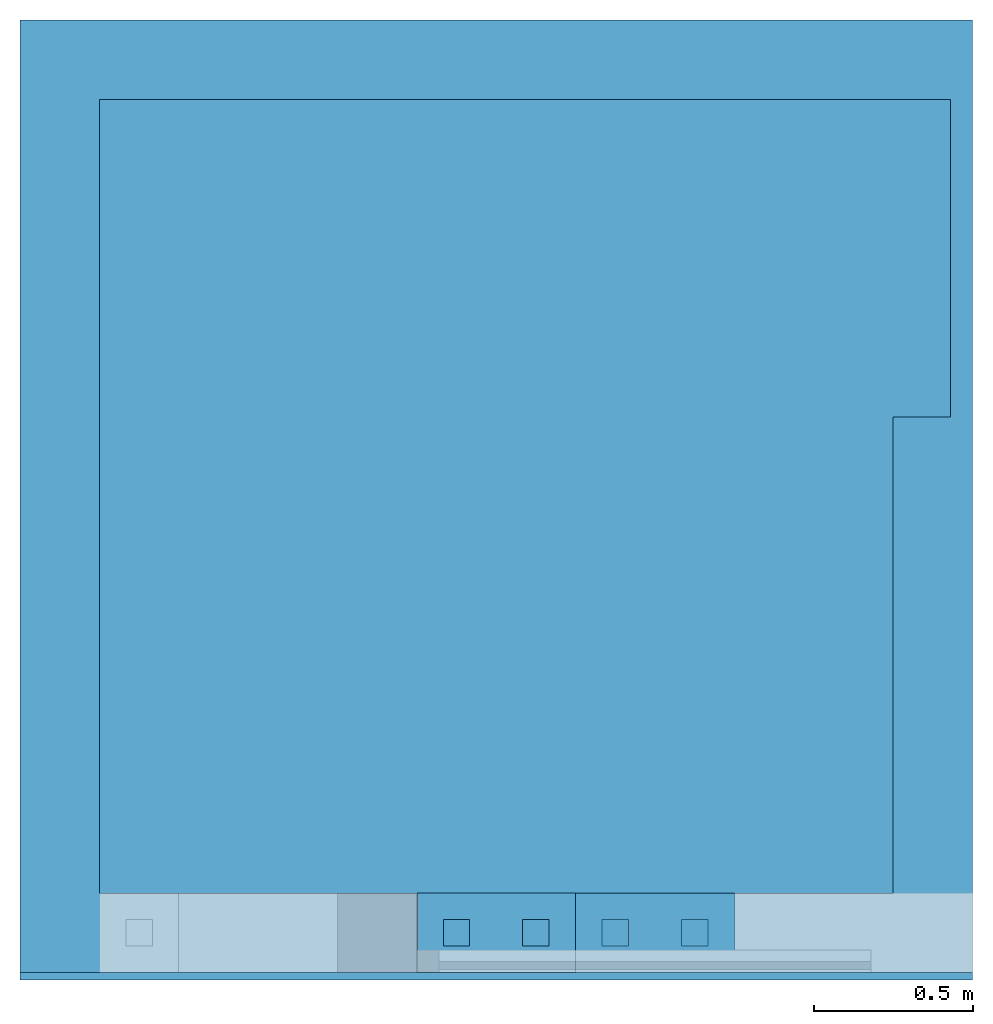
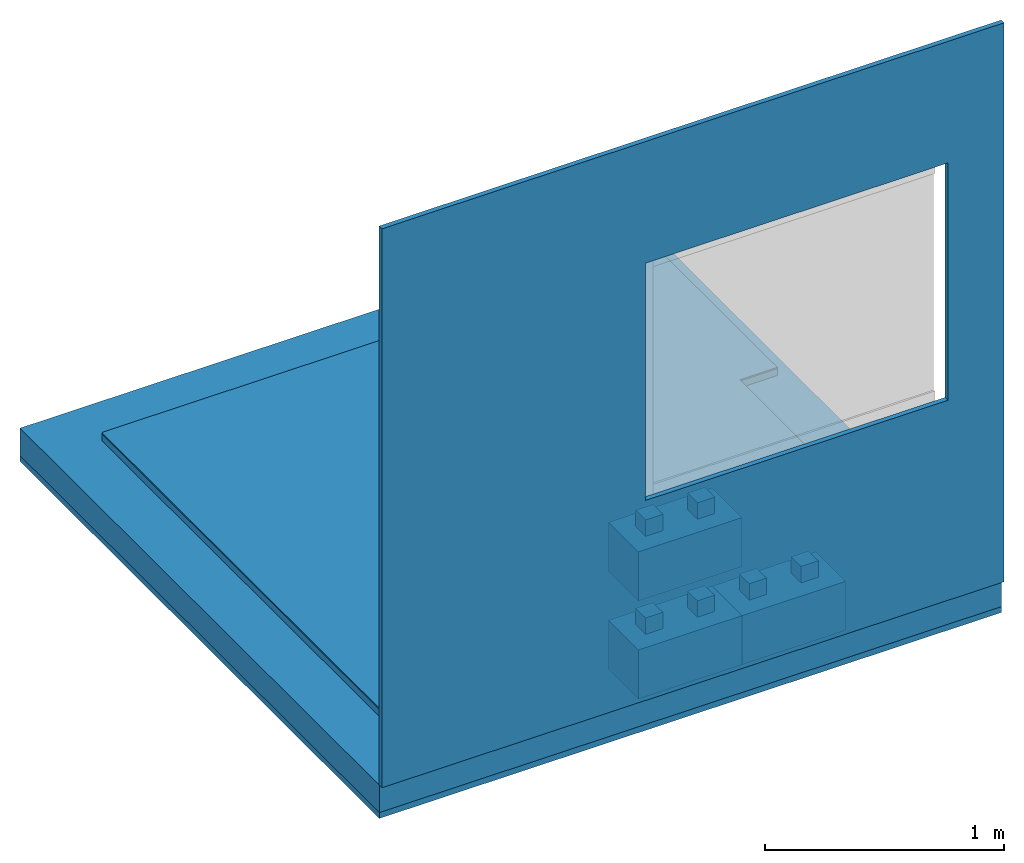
# One storey, part 8 of 9: 5 building element parts, 3 walls, 1 opening, 3 elements without a shape of their own.
"""IFC4 building model written with IfcOpenShell, lengths in centimetres."""

from ifc_helpers import new_model, entity, si_unit, converted_unit, direction, frame, origin, place, context, subcontext, project, spatial, indexed_curve, outline, extrude, material, type_object, element, aggregate, save


model = new_model("IFC4")

# Units and contexts
model_context = context("Model", 3, precision=0.001, world=origin(), true_north=direction((0.0, 1.0)))
body_context = subcontext(model_context, "Body", "Model", "MODEL_VIEW")
ifc_project = project(units=[si_unit("LENGTHUNIT", "METRE", prefix="CENTI"), si_unit("AREAUNIT", "SQUARE_METRE"), si_unit("VOLUMEUNIT", "CUBIC_METRE"), converted_unit("PLANEANGLEUNIT", "DEGREE", entity("IfcPlaneAngleMeasure", 0.017453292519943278), si_unit("PLANEANGLEUNIT", "RADIAN"), dimensions=[0, 0, 0, 0, 0, 0, 0])], contexts=[model_context])

# Site, building, storey
site_placement = place(None, origin())
site = spatial("IfcSite", under=ifc_project, at=site_placement, Name="Default", CompositionType="ELEMENT")
building_placement = place(site_placement, origin())
building = spatial("IfcBuilding", under=site, at=building_placement, CompositionType="ELEMENT")
storey_placement = place(building_placement, frame((0.0, 0.0, -4.0)))
storey = spatial("IfcBuildingStorey", under=building, at=storey_placement, Name="L00__ABOVE Slab", CompositionType="ELEMENT", Elevation=-4.000000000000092)

# Walls
ifc_material_1 = material(Name="Miscellaneous__Timber Block__Triqbriq, X", Category="Miscellaneous")
wall_type_1 = type_object("IfcWallType", Name="Columns : wll_s__TIMBER BLOCK__Triqbriq, Full Width__wp : WS25", PredefinedType="SOLIDWALL", material=ifc_material_1)
wall_1_placement = place(storey_placement, frame((3006.8289147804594, 2128.520030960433, 50.0)))
element("IfcWall", 1, at=wall_1_placement, inside=storey, type_object=wall_type_1, material=ifc_material_1, Name="Columns : wll_s__TIMBER BLOCK__Triqbriq, Full Width__wp : WS25", PredefinedType="SOLIDWALL", context=body_context, shape_type="SweptSolid", body=[
    extrude(outline(indexed_curve([(-4.166666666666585, -4.166666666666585), (4.166666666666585, -4.166666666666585), (4.166666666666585, 4.166666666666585), (-4.166666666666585, 4.166666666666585), (-4.166666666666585, -4.166666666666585)], self_intersect=False)), frame((37.50000000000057, 12.500000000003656, 16.666666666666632), z_axis=(0.0, 0.0, 1.0), x_axis=(0.0, 1.0, 0.0)), (0.0, 0.0, 1.0), 16.666666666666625),
    extrude(outline(indexed_curve([(-4.166666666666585, -4.166666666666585), (4.166666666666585, -4.166666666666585), (4.166666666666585, 4.166666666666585), (-4.166666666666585, 4.166666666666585), (-4.166666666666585, -4.166666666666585)], self_intersect=False)), frame((12.500000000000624, 12.500000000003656, 16.666666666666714), z_axis=(0.0, 0.0, 1.0), x_axis=(0.0, 1.0, 0.0)), (0.0, 0.0, 1.0), 16.666666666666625),
    extrude(outline(indexed_curve([(-4.166666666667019, -4.166666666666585), (4.166666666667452, -4.166666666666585), (4.166666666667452, 4.166666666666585), (-4.166666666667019, 4.166666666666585), (-4.166666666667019, -4.166666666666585)], self_intersect=False)), frame((45.83333333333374, 20.833333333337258, 8.333333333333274), z_axis=(0.0, 0.0, 1.0), x_axis=(0.0, 1.0, 0.0)), (0.0, 0.0, 1.0), 8.333333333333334),
    extrude(outline(indexed_curve([(-4.166666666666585, -4.166666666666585), (4.166666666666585, -4.166666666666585), (4.166666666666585, 4.166666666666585), (-4.166666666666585, 4.166666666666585), (-4.166666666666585, -4.166666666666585)], self_intersect=False)), frame((45.83333333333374, 4.166666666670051, 8.333333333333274), z_axis=(0.0, 0.0, 1.0), x_axis=(0.0, 1.0, 0.0)), (0.0, 0.0, 1.0), 8.333333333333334),
    extrude(outline(indexed_curve([(-4.166666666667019, -4.166666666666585), (4.166666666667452, -4.166666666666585), (4.166666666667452, 4.166666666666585), (-4.166666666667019, 4.166666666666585), (-4.166666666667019, -4.166666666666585)], self_intersect=False)), frame((4.166666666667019, 20.833333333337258, 8.333333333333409), z_axis=(0.0, 0.0, 1.0), x_axis=(0.0, 1.0, 0.0)), (0.0, 0.0, 1.0), 8.333333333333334),
    extrude(outline(indexed_curve([(-4.166666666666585, -4.166666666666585), (4.166666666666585, -4.166666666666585), (4.166666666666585, 4.166666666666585), (-4.166666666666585, 4.166666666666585), (-4.166666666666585, -4.166666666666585)], self_intersect=False)), frame((4.166666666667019, 4.166666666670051, 8.333333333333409), z_axis=(0.0, 0.0, 1.0), x_axis=(0.0, 1.0, 0.0)), (0.0, 0.0, 1.0), 8.333333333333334),
    extrude(outline(indexed_curve([(-4.166666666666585, -8.33333333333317), (4.166666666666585, -8.33333333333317), (4.166666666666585, 8.333333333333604), (-4.166666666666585, 8.333333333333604), (-4.166666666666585, -8.33333333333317)], self_intersect=False)), frame((25.0, 4.166666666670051, 8.333333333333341), z_axis=(0.0, 0.0, 1.0), x_axis=(0.0, 1.0, 0.0)), (0.0, 0.0, 1.0), 8.333333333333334),
    extrude(outline(indexed_curve([(-4.166666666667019, -8.33333333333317), (4.166666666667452, -8.33333333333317), (4.166666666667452, 8.333333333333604), (-4.166666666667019, 8.333333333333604), (-4.166666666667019, -8.33333333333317)], self_intersect=False)), frame((25.0, 20.833333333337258, 8.333333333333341), z_axis=(0.0, 0.0, 1.0), x_axis=(0.0, 1.0, 0.0)), (0.0, 0.0, 1.0), 8.333333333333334),
    extrude(outline(indexed_curve([(-4.166666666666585, -24.999999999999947), (4.166666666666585, -24.999999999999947), (4.166666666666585, 24.999999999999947), (-4.166666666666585, 24.999999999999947), (-4.166666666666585, -24.999999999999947)], self_intersect=False)), frame((25.0, 12.500000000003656, 8.333333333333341), z_axis=(0.0, 0.0, 1.0), x_axis=(0.0, 1.0, 0.0)), (0.0, 0.0, 1.0), 8.333333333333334),
    extrude(outline(indexed_curve([(-12.500000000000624, -4.166666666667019), (12.50000000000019, -4.166666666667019), (12.50000000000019, 4.166666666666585), (-12.500000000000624, 4.166666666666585), (-12.500000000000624, -4.166666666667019)], self_intersect=False)), frame((29.1666666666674, 12.50000000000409, 0.0), z_axis=(0.0, 0.0, 1.0), x_axis=(0.0, 1.0, 0.0)), (0.0, 0.0, 1.0), 8.333333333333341),
    extrude(outline(indexed_curve([(-12.500000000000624, -4.166666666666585), (12.50000000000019, -4.166666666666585), (12.50000000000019, 4.166666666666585), (-12.500000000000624, 4.166666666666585), (-12.500000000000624, -4.166666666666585)], self_intersect=False)), frame((20.833333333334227, 12.50000000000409, 0.0), z_axis=(0.0, 0.0, 1.0), x_axis=(0.0, 1.0, 0.0)), (0.0, 0.0, 1.0), 8.333333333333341),
    extrude(outline(indexed_curve([(-12.500000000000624, -4.166666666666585), (12.50000000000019, -4.166666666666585), (12.50000000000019, 4.166666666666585), (-12.500000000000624, 4.166666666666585), (-12.500000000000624, -4.166666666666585)], self_intersect=False)), frame((45.833333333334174, 12.50000000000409, 0.0), z_axis=(0.0, 0.0, 1.0), x_axis=(0.0, 1.0, 0.0)), (0.0, 0.0, 1.0), 8.333333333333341),
    extrude(outline(indexed_curve([(-12.500000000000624, -4.166666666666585), (12.50000000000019, -4.166666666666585), (12.50000000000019, 4.166666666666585), (-12.500000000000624, 4.166666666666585), (-12.500000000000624, -4.166666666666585)], self_intersect=False)), frame((4.166666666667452, 12.50000000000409, 0.0), z_axis=(0.0, 0.0, 1.0), x_axis=(0.0, 1.0, 0.0)), (0.0, 0.0, 1.0), 8.333333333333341),
    extrude(outline(indexed_curve([(-4.166666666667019, -4.166666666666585), (4.166666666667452, -4.166666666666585), (4.166666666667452, 4.166666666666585), (-4.166666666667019, 4.166666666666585), (-4.166666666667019, -4.166666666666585)], self_intersect=False)), frame((37.500000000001, 20.833333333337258, 0.0), z_axis=(0.0, 0.0, 1.0), x_axis=(0.0, 1.0, 0.0)), (0.0, 0.0, 1.0), 24.999999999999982),
    extrude(outline(indexed_curve([(-4.166666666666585, -4.166666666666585), (4.166666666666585, -4.166666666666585), (4.166666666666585, 4.166666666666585), (-4.166666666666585, 4.166666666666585), (-4.166666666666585, -4.166666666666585)], self_intersect=False)), frame((37.500000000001, 4.166666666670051, 0.0), z_axis=(0.0, 0.0, 1.0), x_axis=(0.0, 1.0, 0.0)), (0.0, 0.0, 1.0), 24.999999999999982),
    extrude(outline(indexed_curve([(-4.166666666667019, -4.166666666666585), (4.166666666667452, -4.166666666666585), (4.166666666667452, 4.166666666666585), (-4.166666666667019, 4.166666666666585), (-4.166666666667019, -4.166666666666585)], self_intersect=False)), frame((12.500000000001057, 20.833333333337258, 0.0), z_axis=(0.0, 0.0, 1.0), x_axis=(0.0, 1.0, 0.0)), (0.0, 0.0, 1.0), 24.999999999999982),
    extrude(outline(indexed_curve([(-4.166666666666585, -4.166666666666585), (4.166666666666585, -4.166666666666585), (4.166666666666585, 4.166666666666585), (-4.166666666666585, 4.166666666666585), (-4.166666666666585, -4.166666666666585)], self_intersect=False)), frame((12.500000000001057, 4.166666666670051, 0.0), z_axis=(0.0, 0.0, 1.0), x_axis=(0.0, 1.0, 0.0)), (0.0, 0.0, 1.0), 24.999999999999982),
    extrude(outline(indexed_curve([(-12.500000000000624, -4.166666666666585), (12.50000000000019, -4.166666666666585), (12.50000000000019, 4.166666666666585), (-12.500000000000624, 4.166666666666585), (-12.500000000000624, -4.166666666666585)], self_intersect=False)), frame((45.83333333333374, 12.50000000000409, 16.666666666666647), z_axis=(0.0, 0.0, 1.0), x_axis=(0.0, 1.0, 0.0)), (0.0, 0.0, 1.0), 8.333333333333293),
    extrude(outline(indexed_curve([(-12.500000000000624, -4.166666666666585), (12.50000000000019, -4.166666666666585), (12.50000000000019, 4.166666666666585), (-12.500000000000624, 4.166666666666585), (-12.500000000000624, -4.166666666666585)], self_intersect=False)), frame((29.1666666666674, 12.50000000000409, 16.6666666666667), z_axis=(0.0, 0.0, 1.0), x_axis=(0.0, 1.0, 0.0)), (0.0, 0.0, 1.0), 8.333333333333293),
    extrude(outline(indexed_curve([(-12.500000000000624, -4.166666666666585), (12.50000000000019, -4.166666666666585), (12.50000000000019, 4.166666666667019), (-12.500000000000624, 4.166666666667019), (-12.500000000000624, -4.166666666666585)], self_intersect=False)), frame((20.833333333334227, 12.50000000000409, 16.66666666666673), z_axis=(0.0, 0.0, 1.0), x_axis=(0.0, 1.0, 0.0)), (0.0, 0.0, 1.0), 8.333333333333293),
    extrude(outline(indexed_curve([(-12.500000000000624, -4.166666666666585), (12.50000000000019, -4.166666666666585), (12.50000000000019, 4.166666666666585), (-12.500000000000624, 4.166666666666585), (-12.500000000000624, -4.166666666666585)], self_intersect=False)), frame((4.166666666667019, 12.50000000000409, 16.66666666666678), z_axis=(0.0, 0.0, 1.0), x_axis=(0.0, 1.0, 0.0)), (0.0, 0.0, 1.0), 8.333333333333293),
])
wall_2_placement = place(storey_placement, frame((3056.8289147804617, 2128.520030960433, 0.0)))
element("IfcWall", 2, at=wall_2_placement, inside=storey, type_object=wall_type_1, material=ifc_material_1, Name="Columns : wll_s__TIMBER BLOCK__Triqbriq, Full Width__wp : WS25", PredefinedType="SOLIDWALL", context=body_context, shape_type="SweptSolid", body=[
    extrude(outline(indexed_curve([(-4.166666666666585, -4.166666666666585), (4.166666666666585, -4.166666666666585), (4.166666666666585, 4.166666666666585), (-4.166666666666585, 4.166666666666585), (-4.166666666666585, -4.166666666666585)], self_intersect=False)), frame((37.50000000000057, 12.500000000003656, 16.666666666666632), z_axis=(0.0, 0.0, 1.0), x_axis=(0.0, 1.0, 0.0)), (0.0, 0.0, 1.0), 16.666666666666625),
    extrude(outline(indexed_curve([(-4.166666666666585, -4.166666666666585), (4.166666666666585, -4.166666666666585), (4.166666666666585, 4.166666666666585), (-4.166666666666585, 4.166666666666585), (-4.166666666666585, -4.166666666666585)], self_intersect=False)), frame((12.500000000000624, 12.500000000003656, 16.666666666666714), z_axis=(0.0, 0.0, 1.0), x_axis=(0.0, 1.0, 0.0)), (0.0, 0.0, 1.0), 16.666666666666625),
    extrude(outline(indexed_curve([(-4.166666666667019, -4.166666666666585), (4.166666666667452, -4.166666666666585), (4.166666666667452, 4.166666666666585), (-4.166666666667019, 4.166666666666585), (-4.166666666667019, -4.166666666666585)], self_intersect=False)), frame((45.83333333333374, 20.833333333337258, 8.333333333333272), z_axis=(0.0, 0.0, 1.0), x_axis=(0.0, 1.0, 0.0)), (0.0, 0.0, 1.0), 8.333333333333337),
    extrude(outline(indexed_curve([(-4.166666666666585, -4.166666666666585), (4.166666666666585, -4.166666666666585), (4.166666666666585, 4.166666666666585), (-4.166666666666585, 4.166666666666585), (-4.166666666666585, -4.166666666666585)], self_intersect=False)), frame((45.83333333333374, 4.166666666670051, 8.333333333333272), z_axis=(0.0, 0.0, 1.0), x_axis=(0.0, 1.0, 0.0)), (0.0, 0.0, 1.0), 8.333333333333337),
    extrude(outline(indexed_curve([(-4.166666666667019, -4.166666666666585), (4.166666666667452, -4.166666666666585), (4.166666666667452, 4.166666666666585), (-4.166666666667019, 4.166666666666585), (-4.166666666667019, -4.166666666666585)], self_intersect=False)), frame((4.166666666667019, 20.833333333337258, 8.333333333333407), z_axis=(0.0, 0.0, 1.0), x_axis=(0.0, 1.0, 0.0)), (0.0, 0.0, 1.0), 8.333333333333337),
    extrude(outline(indexed_curve([(-4.166666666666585, -4.166666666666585), (4.166666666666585, -4.166666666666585), (4.166666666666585, 4.166666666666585), (-4.166666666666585, 4.166666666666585), (-4.166666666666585, -4.166666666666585)], self_intersect=False)), frame((4.166666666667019, 4.166666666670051, 8.333333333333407), z_axis=(0.0, 0.0, 1.0), x_axis=(0.0, 1.0, 0.0)), (0.0, 0.0, 1.0), 8.333333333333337),
    extrude(outline(indexed_curve([(-4.166666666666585, -8.33333333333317), (4.166666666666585, -8.33333333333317), (4.166666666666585, 8.333333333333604), (-4.166666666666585, 8.333333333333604), (-4.166666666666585, -8.33333333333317)], self_intersect=False)), frame((25.0, 4.166666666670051, 8.33333333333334), z_axis=(0.0, 0.0, 1.0), x_axis=(0.0, 1.0, 0.0)), (0.0, 0.0, 1.0), 8.333333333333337),
    extrude(outline(indexed_curve([(-4.166666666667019, -8.33333333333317), (4.166666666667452, -8.33333333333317), (4.166666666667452, 8.333333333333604), (-4.166666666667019, 8.333333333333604), (-4.166666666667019, -8.33333333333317)], self_intersect=False)), frame((25.0, 20.833333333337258, 8.33333333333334), z_axis=(0.0, 0.0, 1.0), x_axis=(0.0, 1.0, 0.0)), (0.0, 0.0, 1.0), 8.333333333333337),
    extrude(outline(indexed_curve([(-4.166666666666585, -25.00000000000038), (4.166666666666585, -25.00000000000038), (4.166666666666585, 24.999999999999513), (-4.166666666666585, 24.999999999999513), (-4.166666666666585, -25.00000000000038)], self_intersect=False)), frame((25.0, 12.500000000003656, 8.33333333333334), z_axis=(0.0, 0.0, 1.0), x_axis=(0.0, 1.0, 0.0)), (0.0, 0.0, 1.0), 8.333333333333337),
    extrude(outline(indexed_curve([(-12.500000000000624, -4.166666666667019), (12.50000000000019, -4.166666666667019), (12.50000000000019, 4.166666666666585), (-12.500000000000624, 4.166666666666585), (-12.500000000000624, -4.166666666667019)], self_intersect=False)), frame((29.1666666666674, 12.50000000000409, 0.0), z_axis=(0.0, 0.0, 1.0), x_axis=(0.0, 1.0, 0.0)), (0.0, 0.0, 1.0), 8.333333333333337),
    extrude(outline(indexed_curve([(-12.500000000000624, -4.166666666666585), (12.50000000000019, -4.166666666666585), (12.50000000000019, 4.166666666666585), (-12.500000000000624, 4.166666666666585), (-12.500000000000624, -4.166666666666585)], self_intersect=False)), frame((20.833333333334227, 12.50000000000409, 0.0), z_axis=(0.0, 0.0, 1.0), x_axis=(0.0, 1.0, 0.0)), (0.0, 0.0, 1.0), 8.333333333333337),
    extrude(outline(indexed_curve([(-12.500000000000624, -4.166666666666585), (12.50000000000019, -4.166666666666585), (12.50000000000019, 4.166666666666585), (-12.500000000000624, 4.166666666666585), (-12.500000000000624, -4.166666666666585)], self_intersect=False)), frame((45.833333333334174, 12.50000000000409, 0.0), z_axis=(0.0, 0.0, 1.0), x_axis=(0.0, 1.0, 0.0)), (0.0, 0.0, 1.0), 8.333333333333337),
    extrude(outline(indexed_curve([(-12.500000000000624, -4.166666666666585), (12.50000000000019, -4.166666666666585), (12.50000000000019, 4.166666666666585), (-12.500000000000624, 4.166666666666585), (-12.500000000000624, -4.166666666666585)], self_intersect=False)), frame((4.166666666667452, 12.50000000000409, 0.0), z_axis=(0.0, 0.0, 1.0), x_axis=(0.0, 1.0, 0.0)), (0.0, 0.0, 1.0), 8.333333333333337),
    extrude(outline(indexed_curve([(-4.166666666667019, -4.166666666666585), (4.166666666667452, -4.166666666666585), (4.166666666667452, 4.166666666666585), (-4.166666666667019, 4.166666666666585), (-4.166666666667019, -4.166666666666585)], self_intersect=False)), frame((37.500000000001, 20.833333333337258, 0.0), z_axis=(0.0, 0.0, 1.0), x_axis=(0.0, 1.0, 0.0)), (0.0, 0.0, 1.0), 24.99999999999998),
    extrude(outline(indexed_curve([(-4.166666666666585, -4.166666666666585), (4.166666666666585, -4.166666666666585), (4.166666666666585, 4.166666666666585), (-4.166666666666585, 4.166666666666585), (-4.166666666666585, -4.166666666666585)], self_intersect=False)), frame((37.500000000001, 4.166666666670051, 0.0), z_axis=(0.0, 0.0, 1.0), x_axis=(0.0, 1.0, 0.0)), (0.0, 0.0, 1.0), 24.99999999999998),
    extrude(outline(indexed_curve([(-4.166666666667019, -4.166666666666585), (4.166666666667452, -4.166666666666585), (4.166666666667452, 4.166666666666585), (-4.166666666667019, 4.166666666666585), (-4.166666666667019, -4.166666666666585)], self_intersect=False)), frame((12.500000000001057, 20.833333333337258, 0.0), z_axis=(0.0, 0.0, 1.0), x_axis=(0.0, 1.0, 0.0)), (0.0, 0.0, 1.0), 24.99999999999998),
    extrude(outline(indexed_curve([(-4.166666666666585, -4.166666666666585), (4.166666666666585, -4.166666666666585), (4.166666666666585, 4.166666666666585), (-4.166666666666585, 4.166666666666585), (-4.166666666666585, -4.166666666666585)], self_intersect=False)), frame((12.500000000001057, 4.166666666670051, 0.0), z_axis=(0.0, 0.0, 1.0), x_axis=(0.0, 1.0, 0.0)), (0.0, 0.0, 1.0), 24.99999999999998),
    extrude(outline(indexed_curve([(-12.500000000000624, -4.166666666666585), (12.50000000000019, -4.166666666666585), (12.50000000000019, 4.166666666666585), (-12.500000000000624, 4.166666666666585), (-12.500000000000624, -4.166666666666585)], self_intersect=False)), frame((45.83333333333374, 12.50000000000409, 16.666666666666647), z_axis=(0.0, 0.0, 1.0), x_axis=(0.0, 1.0, 0.0)), (0.0, 0.0, 1.0), 8.333333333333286),
    extrude(outline(indexed_curve([(-12.500000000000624, -4.166666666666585), (12.50000000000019, -4.166666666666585), (12.50000000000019, 4.166666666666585), (-12.500000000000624, 4.166666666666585), (-12.500000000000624, -4.166666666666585)], self_intersect=False)), frame((29.1666666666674, 12.50000000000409, 16.6666666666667), z_axis=(0.0, 0.0, 1.0), x_axis=(0.0, 1.0, 0.0)), (0.0, 0.0, 1.0), 8.333333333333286),
    extrude(outline(indexed_curve([(-12.500000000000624, -4.166666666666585), (12.50000000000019, -4.166666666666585), (12.50000000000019, 4.166666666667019), (-12.500000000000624, 4.166666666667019), (-12.500000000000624, -4.166666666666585)], self_intersect=False)), frame((20.833333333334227, 12.50000000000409, 16.66666666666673), z_axis=(0.0, 0.0, 1.0), x_axis=(0.0, 1.0, 0.0)), (0.0, 0.0, 1.0), 8.333333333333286),
    extrude(outline(indexed_curve([(-12.500000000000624, -4.166666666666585), (12.50000000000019, -4.166666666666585), (12.50000000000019, 4.166666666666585), (-12.500000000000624, 4.166666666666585), (-12.500000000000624, -4.166666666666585)], self_intersect=False)), frame((4.166666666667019, 12.50000000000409, 16.66666666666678), z_axis=(0.0, 0.0, 1.0), x_axis=(0.0, 1.0, 0.0)), (0.0, 0.0, 1.0), 8.333333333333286),
])
wall_3_placement = place(storey_placement, frame((3006.8289147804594, 2128.520030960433, 0.0)))
element("IfcWall", 3, at=wall_3_placement, inside=storey, type_object=wall_type_1, material=ifc_material_1, Name="Columns : wll_s__TIMBER BLOCK__Triqbriq, Full Width__wp : WS25", PredefinedType="SOLIDWALL", context=body_context, shape_type="SweptSolid", body=[
    extrude(outline(indexed_curve([(-4.166666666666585, -4.166666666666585), (4.166666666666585, -4.166666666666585), (4.166666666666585, 4.166666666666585), (-4.166666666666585, 4.166666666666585), (-4.166666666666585, -4.166666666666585)], self_intersect=False)), frame((37.50000000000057, 12.500000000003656, 16.666666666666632), z_axis=(0.0, 0.0, 1.0), x_axis=(0.0, 1.0, 0.0)), (0.0, 0.0, 1.0), 16.666666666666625),
    extrude(outline(indexed_curve([(-4.166666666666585, -4.166666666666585), (4.166666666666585, -4.166666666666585), (4.166666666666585, 4.166666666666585), (-4.166666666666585, 4.166666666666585), (-4.166666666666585, -4.166666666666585)], self_intersect=False)), frame((12.500000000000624, 12.500000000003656, 16.666666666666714), z_axis=(0.0, 0.0, 1.0), x_axis=(0.0, 1.0, 0.0)), (0.0, 0.0, 1.0), 16.666666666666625),
    extrude(outline(indexed_curve([(-4.166666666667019, -4.166666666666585), (4.166666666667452, -4.166666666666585), (4.166666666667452, 4.166666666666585), (-4.166666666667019, 4.166666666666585), (-4.166666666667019, -4.166666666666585)], self_intersect=False)), frame((45.83333333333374, 20.833333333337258, 8.333333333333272), z_axis=(0.0, 0.0, 1.0), x_axis=(0.0, 1.0, 0.0)), (0.0, 0.0, 1.0), 8.333333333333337),
    extrude(outline(indexed_curve([(-4.166666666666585, -4.166666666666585), (4.166666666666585, -4.166666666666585), (4.166666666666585, 4.166666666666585), (-4.166666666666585, 4.166666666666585), (-4.166666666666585, -4.166666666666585)], self_intersect=False)), frame((45.83333333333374, 4.166666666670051, 8.333333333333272), z_axis=(0.0, 0.0, 1.0), x_axis=(0.0, 1.0, 0.0)), (0.0, 0.0, 1.0), 8.333333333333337),
    extrude(outline(indexed_curve([(-4.166666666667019, -4.166666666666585), (4.166666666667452, -4.166666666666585), (4.166666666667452, 4.166666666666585), (-4.166666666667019, 4.166666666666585), (-4.166666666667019, -4.166666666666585)], self_intersect=False)), frame((4.166666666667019, 20.833333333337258, 8.333333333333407), z_axis=(0.0, 0.0, 1.0), x_axis=(0.0, 1.0, 0.0)), (0.0, 0.0, 1.0), 8.333333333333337),
    extrude(outline(indexed_curve([(-4.166666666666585, -4.166666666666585), (4.166666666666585, -4.166666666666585), (4.166666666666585, 4.166666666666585), (-4.166666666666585, 4.166666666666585), (-4.166666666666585, -4.166666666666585)], self_intersect=False)), frame((4.166666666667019, 4.166666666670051, 8.333333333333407), z_axis=(0.0, 0.0, 1.0), x_axis=(0.0, 1.0, 0.0)), (0.0, 0.0, 1.0), 8.333333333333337),
    extrude(outline(indexed_curve([(-4.166666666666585, -8.33333333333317), (4.166666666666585, -8.33333333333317), (4.166666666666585, 8.333333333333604), (-4.166666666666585, 8.333333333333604), (-4.166666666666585, -8.33333333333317)], self_intersect=False)), frame((25.0, 4.166666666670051, 8.33333333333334), z_axis=(0.0, 0.0, 1.0), x_axis=(0.0, 1.0, 0.0)), (0.0, 0.0, 1.0), 8.333333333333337),
    extrude(outline(indexed_curve([(-4.166666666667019, -8.33333333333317), (4.166666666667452, -8.33333333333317), (4.166666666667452, 8.333333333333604), (-4.166666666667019, 8.333333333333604), (-4.166666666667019, -8.33333333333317)], self_intersect=False)), frame((25.0, 20.833333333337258, 8.33333333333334), z_axis=(0.0, 0.0, 1.0), x_axis=(0.0, 1.0, 0.0)), (0.0, 0.0, 1.0), 8.333333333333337),
    extrude(outline(indexed_curve([(-4.166666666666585, -24.999999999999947), (4.166666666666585, -24.999999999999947), (4.166666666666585, 24.999999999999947), (-4.166666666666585, 24.999999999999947), (-4.166666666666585, -24.999999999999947)], self_intersect=False)), frame((25.0, 12.500000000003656, 8.33333333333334), z_axis=(0.0, 0.0, 1.0), x_axis=(0.0, 1.0, 0.0)), (0.0, 0.0, 1.0), 8.333333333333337),
    extrude(outline(indexed_curve([(-12.500000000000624, -4.166666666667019), (12.50000000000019, -4.166666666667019), (12.50000000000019, 4.166666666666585), (-12.500000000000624, 4.166666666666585), (-12.500000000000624, -4.166666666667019)], self_intersect=False)), frame((29.1666666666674, 12.50000000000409, 0.0), z_axis=(0.0, 0.0, 1.0), x_axis=(0.0, 1.0, 0.0)), (0.0, 0.0, 1.0), 8.333333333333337),
    extrude(outline(indexed_curve([(-12.500000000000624, -4.166666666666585), (12.50000000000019, -4.166666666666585), (12.50000000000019, 4.166666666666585), (-12.500000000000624, 4.166666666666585), (-12.500000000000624, -4.166666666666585)], self_intersect=False)), frame((20.833333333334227, 12.50000000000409, 0.0), z_axis=(0.0, 0.0, 1.0), x_axis=(0.0, 1.0, 0.0)), (0.0, 0.0, 1.0), 8.333333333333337),
    extrude(outline(indexed_curve([(-12.500000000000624, -4.166666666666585), (12.50000000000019, -4.166666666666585), (12.50000000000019, 4.166666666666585), (-12.500000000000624, 4.166666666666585), (-12.500000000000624, -4.166666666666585)], self_intersect=False)), frame((45.833333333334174, 12.50000000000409, 0.0), z_axis=(0.0, 0.0, 1.0), x_axis=(0.0, 1.0, 0.0)), (0.0, 0.0, 1.0), 8.333333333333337),
    extrude(outline(indexed_curve([(-12.500000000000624, -4.166666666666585), (12.50000000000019, -4.166666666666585), (12.50000000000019, 4.166666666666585), (-12.500000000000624, 4.166666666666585), (-12.500000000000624, -4.166666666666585)], self_intersect=False)), frame((4.166666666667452, 12.50000000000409, 0.0), z_axis=(0.0, 0.0, 1.0), x_axis=(0.0, 1.0, 0.0)), (0.0, 0.0, 1.0), 8.333333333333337),
    extrude(outline(indexed_curve([(-4.166666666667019, -4.166666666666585), (4.166666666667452, -4.166666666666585), (4.166666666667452, 4.166666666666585), (-4.166666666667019, 4.166666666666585), (-4.166666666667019, -4.166666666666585)], self_intersect=False)), frame((37.500000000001, 20.833333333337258, 0.0), z_axis=(0.0, 0.0, 1.0), x_axis=(0.0, 1.0, 0.0)), (0.0, 0.0, 1.0), 24.99999999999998),
    extrude(outline(indexed_curve([(-4.166666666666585, -4.166666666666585), (4.166666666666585, -4.166666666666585), (4.166666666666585, 4.166666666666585), (-4.166666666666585, 4.166666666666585), (-4.166666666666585, -4.166666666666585)], self_intersect=False)), frame((37.500000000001, 4.166666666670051, 0.0), z_axis=(0.0, 0.0, 1.0), x_axis=(0.0, 1.0, 0.0)), (0.0, 0.0, 1.0), 24.99999999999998),
    extrude(outline(indexed_curve([(-4.166666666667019, -4.166666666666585), (4.166666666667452, -4.166666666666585), (4.166666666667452, 4.166666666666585), (-4.166666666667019, 4.166666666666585), (-4.166666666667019, -4.166666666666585)], self_intersect=False)), frame((12.500000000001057, 20.833333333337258, 0.0), z_axis=(0.0, 0.0, 1.0), x_axis=(0.0, 1.0, 0.0)), (0.0, 0.0, 1.0), 24.99999999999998),
    extrude(outline(indexed_curve([(-4.166666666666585, -4.166666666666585), (4.166666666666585, -4.166666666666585), (4.166666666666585, 4.166666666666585), (-4.166666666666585, 4.166666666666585), (-4.166666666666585, -4.166666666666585)], self_intersect=False)), frame((12.500000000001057, 4.166666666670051, 0.0), z_axis=(0.0, 0.0, 1.0), x_axis=(0.0, 1.0, 0.0)), (0.0, 0.0, 1.0), 24.99999999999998),
    extrude(outline(indexed_curve([(-12.500000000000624, -4.166666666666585), (12.50000000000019, -4.166666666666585), (12.50000000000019, 4.166666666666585), (-12.500000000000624, 4.166666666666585), (-12.500000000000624, -4.166666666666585)], self_intersect=False)), frame((45.83333333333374, 12.50000000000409, 16.666666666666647), z_axis=(0.0, 0.0, 1.0), x_axis=(0.0, 1.0, 0.0)), (0.0, 0.0, 1.0), 8.333333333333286),
    extrude(outline(indexed_curve([(-12.500000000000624, -4.166666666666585), (12.50000000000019, -4.166666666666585), (12.50000000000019, 4.166666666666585), (-12.500000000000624, 4.166666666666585), (-12.500000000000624, -4.166666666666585)], self_intersect=False)), frame((29.1666666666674, 12.50000000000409, 16.6666666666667), z_axis=(0.0, 0.0, 1.0), x_axis=(0.0, 1.0, 0.0)), (0.0, 0.0, 1.0), 8.333333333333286),
    extrude(outline(indexed_curve([(-12.500000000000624, -4.166666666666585), (12.50000000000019, -4.166666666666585), (12.50000000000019, 4.166666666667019), (-12.500000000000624, 4.166666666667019), (-12.500000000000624, -4.166666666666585)], self_intersect=False)), frame((20.833333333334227, 12.50000000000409, 16.66666666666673), z_axis=(0.0, 0.0, 1.0), x_axis=(0.0, 1.0, 0.0)), (0.0, 0.0, 1.0), 8.333333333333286),
    extrude(outline(indexed_curve([(-12.500000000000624, -4.166666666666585), (12.50000000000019, -4.166666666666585), (12.50000000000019, 4.166666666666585), (-12.500000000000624, 4.166666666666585), (-12.500000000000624, -4.166666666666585)], self_intersect=False)), frame((4.166666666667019, 12.50000000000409, 16.66666666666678), z_axis=(0.0, 0.0, 1.0), x_axis=(0.0, 1.0, 0.0)), (0.0, 0.0, 1.0), 8.333333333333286),
])

# Wall, building element part, opening
wall_type_2 = type_object("IfcWallType", Name="Walls : Basic Wall : wll__EXT ENCLOSURE__Wood Cladding__TriqBriq 2", PredefinedType="STANDARD")
wall_4_placement = place(storey_placement, frame((3181.828914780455, 2127.3200309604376, 0.0), z_axis=(0.0, 0.0, 1.0), x_axis=(-1.0, 0.0, 0.0)))
wall_4 = element("IfcWall", 4, at=wall_4_placement, inside=storey, type_object=wall_type_2, Name="Walls : Basic Wall : wll__EXT ENCLOSURE__Wood Cladding__TriqBriq 2", PredefinedType="NOTDEFINED")
ifc_material_2 = material(Name="_FCD VENT FINISH__Wood Vertical", Category="Unassigned")
building_element_part_1_placement = place(wall_4_placement, origin())
building_element_part_1 = element("IfcBuildingElementPart", 5, at=building_element_part_1_placement, material=ifc_material_2, Name="_FCD VENT FINISH__Wood Vertical", context=body_context, shape_type="SweptSolid", body=[
    extrude(outline(indexed_curve([(-1.199999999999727, -149.99999999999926), (1.2000000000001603, -149.99999999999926), (1.199999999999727, 149.9999999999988), (-1.2000000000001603, 149.9999999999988), (-1.199999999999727, -149.99999999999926)], self_intersect=False)), frame((150.0, 0.0, 0.0), z_axis=(0.0, 0.0, 1.0), x_axis=(0.0, 1.0, 0.0)), (0.0, 0.0, 1.0), 284.99999999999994),
])
opening_placement = place(wall_4_placement, origin())
opening = element("IfcOpeningElement", 6, at=opening_placement, cuts=building_element_part_1, Name="Walls : Basic Wall : wll__EXT ENCLOSURE__Wood Cladding__TriqBriq 2:1", PredefinedType="OPENING", context=body_context, shape_type="SweptSolid", body=[
    extrude(outline(indexed_curve([(-60.50000000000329, -73.00000000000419), (60.5000000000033, -73.00000000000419), (60.5000000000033, 73.00000000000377), (-60.50000000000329, 73.00000000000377), (-60.50000000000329, -73.00000000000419)], self_intersect=False)), frame((100.0, -1.199999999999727, 162.5000000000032), z_axis=(0.0, 1.0, 0.0), x_axis=(0.0, 0.0, 1.0)), (0.0, 0.0, 1.0), 2.3999999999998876),
])
aggregate(wall_4, [building_element_part_1, opening])

# Slab, building element parts
slab_type_1 = type_object("IfcSlabType", Name="Floors : Floor : flr__WP & INSULATION__Foam Glass 17cm__Under Bsmt Slab, TriqBriq 2", PredefinedType="FLOOR")
slab_1_placement = place(storey_placement, origin())
slab_1 = element("IfcSlab", 7, at=slab_1_placement, inside=storey, type_object=slab_type_1, Name="Floors : Floor : flr__WP & INSULATION__Foam Glass 17cm__Under Bsmt Slab, TriqBriq 2", PredefinedType="FLOOR")
ifc_material_3 = material(Name="_FND LAYERS__Insulation__Foam Glass__Glapor PG UMB1", Category="Unassigned")
building_element_part_2_placement = place(slab_1_placement, origin())
building_element_part_2 = element("IfcBuildingElementPart", 8, at=building_element_part_2_placement, material=ifc_material_3, Name="_FND LAYERS__Insulation__Foam Glass__Glapor PG UMB1", context=body_context, shape_type="SweptSolid", body=[
    extrude(outline(indexed_curve([(-150.10000000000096, -149.9999999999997), (150.1000000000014, -149.9999999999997), (150.1000000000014, 149.9999999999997), (-150.10000000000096, 149.9999999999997), (-150.10000000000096, -149.9999999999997)], self_intersect=False)), frame((3031.8289147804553, 2278.420030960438, -14.0), z_axis=(0.0, 0.0, 1.0), x_axis=(0.0, -1.0, 0.0)), (0.0, 0.0, 1.0), 13.999999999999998),
])
ifc_material_4 = material(Name="_FND LAYERS__Capillary Break Course__Crushed Gravel Layer 16/32", Category="Soil")
building_element_part_3_placement = place(slab_1_placement, origin())
building_element_part_3 = element("IfcBuildingElementPart", 9, at=building_element_part_3_placement, material=ifc_material_4, Name="_FND LAYERS__Capillary Break Course__Crushed Gravel Layer 16/32", context=body_context, shape_type="SweptSolid", body=[
    extrude(outline(indexed_curve([(-150.10000000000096, -149.9999999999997), (150.1000000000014, -149.9999999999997), (150.1000000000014, 149.9999999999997), (-150.10000000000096, 149.9999999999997), (-150.10000000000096, -149.9999999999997)], self_intersect=False)), frame((3031.8289147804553, 2278.420030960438, -17.0), z_axis=(0.0, 0.0, 1.0), x_axis=(0.0, -1.0, 0.0)), (0.0, 0.0, 1.0), 3.0000000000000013),
])
aggregate(slab_1, [building_element_part_2, building_element_part_3])

slab_type_2 = type_object("IfcSlabType", Name="Floors : Floor : flr__INT COVERING__Vinyl Tiles 4.2cm__TriqBriq 2", PredefinedType="FLOOR")
slab_2_placement = place(storey_placement, origin())
slab_2 = element("IfcSlab", 10, at=slab_2_placement, inside=storey, type_object=slab_type_2, Name="Floors : Floor : flr__INT COVERING__Vinyl Tiles 4.2cm__TriqBriq 2", PredefinedType="FLOOR")
ifc_material_5 = material(Name="_FLR COVERING__Vinyl Tiles", Category="Unassigned")
building_element_part_4_placement = place(slab_2_placement, origin())
building_element_part_4 = element("IfcBuildingElementPart", 11, at=building_element_part_4_placement, material=ifc_material_5, Name="_FLR COVERING__Vinyl Tiles", context=body_context, shape_type="SweptSolid", body=[
    extrude(outline(indexed_curve([(-116.69999999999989, -172.70000000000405), (133.39999999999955, -172.70000000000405), (133.39999999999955, 77.30000000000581), (-16.69999999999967, 77.30000000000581), (-16.69999999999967, 95.39999999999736), (-116.69999999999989, 95.3999999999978), (-116.69999999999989, -172.70000000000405)], self_intersect=False)), frame((3079.5289147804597, 2286.820030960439, 3.4999999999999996), z_axis=(0.0, 0.0, 1.0), x_axis=(0.0, -1.0, 0.0)), (0.0, 0.0, 1.0), 0.7),
])
ifc_material_6 = material(Name="_FLR LAYERS__Screed__Dry, with Insulation__Fermacell HF", Category="Unassigned")
building_element_part_5_placement = place(slab_2_placement, origin())
building_element_part_5 = element("IfcBuildingElementPart", 12, at=building_element_part_5_placement, material=ifc_material_6, Name="_FLR LAYERS__Screed__Dry, with Insulation__Fermacell HF", context=body_context, shape_type="SweptSolid", body=[
    extrude(outline(indexed_curve([(-116.69999999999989, -172.70000000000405), (133.39999999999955, -172.70000000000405), (133.39999999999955, 77.30000000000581), (-16.69999999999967, 77.30000000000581), (-16.69999999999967, 95.39999999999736), (-116.69999999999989, 95.3999999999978), (-116.69999999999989, -172.70000000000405)], self_intersect=False)), frame((3079.5289147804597, 2286.820030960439, 0.0), z_axis=(0.0, 0.0, 1.0), x_axis=(0.0, -1.0, 0.0)), (0.0, 0.0, 1.0), 3.5000000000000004),
])
aggregate(slab_2, [building_element_part_4, building_element_part_5])

save(model, "model.ifc")
